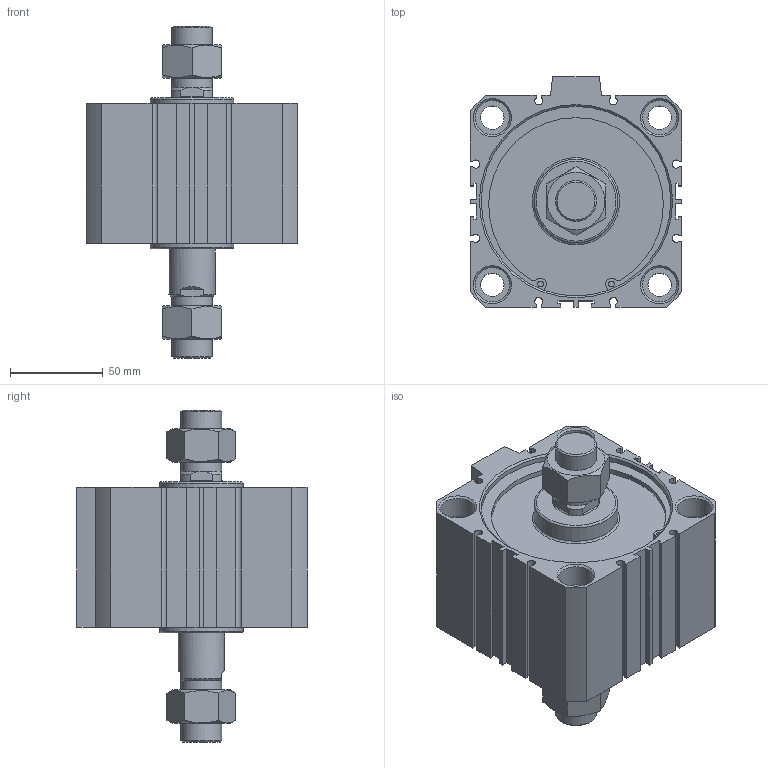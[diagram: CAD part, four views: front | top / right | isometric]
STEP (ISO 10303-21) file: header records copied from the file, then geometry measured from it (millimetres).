
FILE_DESCRIPTION((''),'2;1');
FILE_NAME('I:\3D電子目錄\氣缸\JDD\JDD-BS\JDD100-BS\JDD100x20-BS.stp','2007-02-28T08:49:50',('662F206'),(''),'Autodesk Inventor 10','Autodesk Inventor 10','');
FILE_SCHEMA(('AUTOMOTIVE_DESIGN { 1 0 10303 214 1 1 1 1 }'));
Length unit declared in the file: millimetre
Products named in the file (3): JDD100-BS; R 形環 100
Assembly tree (3 placements, depth 2):
  JDD100-BS
    JDD100-BS
    R 形環 100  x2
Bounding box: 114 x 124 x 178.7 mm (x, y, z)
Volume: 879000.4 mm3; surface area: 115123.6 mm2
Topology: 3 solids, 3 shells, 219 faces, 538 edges, 351 vertices
Faces by surface type: plane 130, cylinder 59, cone 26, bspline 2, torus 2
Full cylindrical faces by diameter (mm): 3.1 x4, 3.5 x2, 12.5 x4, 18.5 x8, 22 x4, 25 x1, 45 x2, 102 x4, 106 x2
Entity records: 5905 total; most frequent: CARTESIAN_POINT 1143, DIRECTION 978, ORIENTED_EDGE 894, EDGE_CURVE 447, AXIS2_PLACEMENT_3D 356, VERTEX_POINT 323, EDGE_LOOP 298, VECTOR 266
